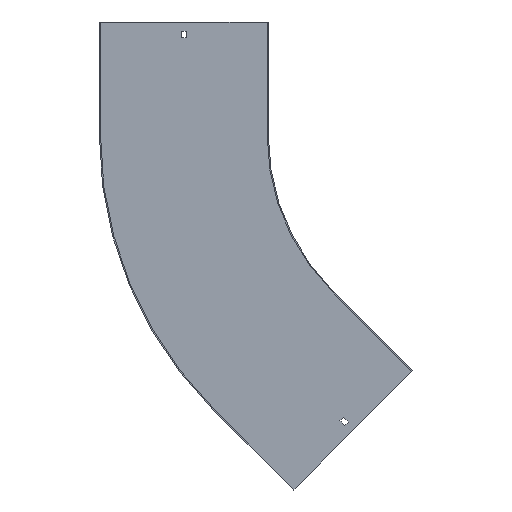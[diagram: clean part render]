
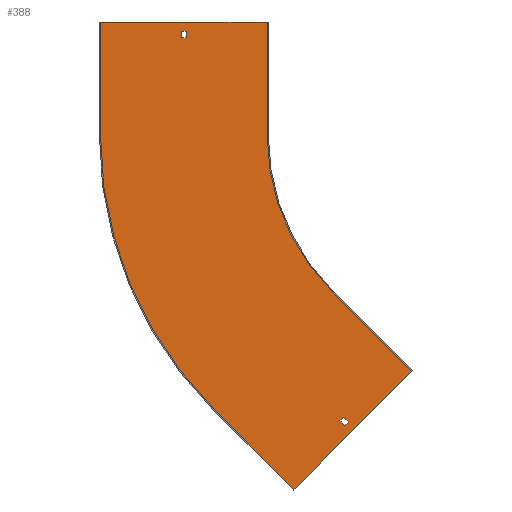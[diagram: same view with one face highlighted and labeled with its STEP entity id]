
A CAD part, front view. The second image highlights one B-rep face of the part: STEP entity #388.
In plain terms, the highlighted planar face has unit normal (0, -1, 0).
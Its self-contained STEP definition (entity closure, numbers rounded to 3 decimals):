
#2 = CARTESIAN_POINT ( 'NONE',  ( -182.964, -1.5, -378.125 ) ) ;
#7 = ORIENTED_EDGE ( 'NONE', *, *, #217, .F. ) ;
#8 = CARTESIAN_POINT ( 'NONE',  ( -396.75, -1.5, 129. ) ) ;
#12 = VECTOR ( 'NONE', #656, 1000. ) ;
#18 = DIRECTION ( 'NONE',  ( 0., 0., -1. ) ) ;
#19 = LINE ( 'NONE', #352, #816 ) ;
#26 = FACE_OUTER_BOUND ( 'NONE', #791, .T. ) ;
#34 = CARTESIAN_POINT ( 'NONE',  ( -290., -1.5, 150. ) ) ;
#35 = VERTEX_POINT ( 'NONE', #363 ) ;
#40 = ORIENTED_EDGE ( 'NONE', *, *, #591, .T. ) ;
#47 = CARTESIAN_POINT ( 'NONE',  ( -290., -1.5, 150. ) ) ;
#55 = CARTESIAN_POINT ( 'NONE',  ( -97.934, -1.5, -310.066 ) ) ;
#63 = EDGE_CURVE ( 'NONE', #397, #78, #826, .T. ) ;
#66 = DIRECTION ( 'NONE',  ( 1., 0., 0. ) ) ;
#78 = VERTEX_POINT ( 'NONE', #218 ) ;
#82 = CARTESIAN_POINT ( 'NONE',  ( -254.558, -1.5, -466.69 ) ) ;
#86 = CIRCLE ( 'NONE', #844, 510. ) ;
#97 = VECTOR ( 'NONE', #66, 1000. ) ;
#105 = DIRECTION ( 'NONE',  ( 0., 0., -1. ) ) ;
#107 = ORIENTED_EDGE ( 'NONE', *, *, #670, .F. ) ;
#110 = LINE ( 'NONE', #378, #269 ) ;
#117 = EDGE_CURVE ( 'NONE', #735, #739, #637, .T. ) ;
#120 = DIRECTION ( 'NONE',  ( -1., 0., 0. ) ) ;
#124 = VECTOR ( 'NONE', #289, 1000. ) ;
#125 = EDGE_CURVE ( 'NONE', #570, #397, #329, .T. ) ;
#131 = LINE ( 'NONE', #191, #288 ) ;
#144 = ORIENTED_EDGE ( 'NONE', *, *, #513, .F. ) ;
#156 = CARTESIAN_POINT ( 'NONE',  ( 97.581, -1.5, -97.581 ) ) ;
#158 = DIRECTION ( 'NONE',  ( 0.707, 0., -0.707 ) ) ;
#176 = CARTESIAN_POINT ( 'NONE',  ( 91.217, -1.5, -91.217 ) ) ;
#183 = CARTESIAN_POINT ( 'NONE',  ( -511.5, -1.5, 150. ) ) ;
#191 = CARTESIAN_POINT ( 'NONE',  ( -285.141, -1.5, -285.141 ) ) ;
#198 = LINE ( 'NONE', #722, #761 ) ;
#206 = ORIENTED_EDGE ( 'NONE', *, *, #546, .T. ) ;
#214 = VERTEX_POINT ( 'NONE', #323 ) ;
#217 = EDGE_CURVE ( 'NONE', #367, #555, #839, .T. ) ;
#218 = CARTESIAN_POINT ( 'NONE',  ( -98.995, -1.5, -311.127 ) ) ;
#224 = EDGE_CURVE ( 'NONE', #235, #347, #510, .T. ) ;
#228 = PLANE ( 'NONE',  #234 ) ;
#234 = AXIS2_PLACEMENT_3D ( 'NONE', #747, #366, #715 ) ;
#235 = VERTEX_POINT ( 'NONE', #386 ) ;
#248 = DIRECTION ( 'NONE',  ( -0.707, 0., 0.707 ) ) ;
#260 = CARTESIAN_POINT ( 'NONE',  ( 0., -1.5, 138. ) ) ;
#269 = VECTOR ( 'NONE', #426, 1000. ) ;
#270 = DIRECTION ( 'NONE',  ( 0., 0., 1. ) ) ;
#283 = EDGE_LOOP ( 'NONE', ( #144, #585, #808, #7 ) ) ;
#285 = DIRECTION ( 'NONE',  ( 0., -1., 0. ) ) ;
#287 = VECTOR ( 'NONE', #775, 1000. ) ;
#288 = VECTOR ( 'NONE', #659, 1000. ) ;
#289 = DIRECTION ( 'NONE',  ( 0.707, 0., 0.707 ) ) ;
#291 = DIRECTION ( 'NONE',  ( 0., 1., 0. ) ) ;
#295 = ORIENTED_EDGE ( 'NONE', *, *, #224, .T. ) ;
#317 = DIRECTION ( 'NONE',  ( -0.707, 0., -0.707 ) ) ;
#323 = CARTESIAN_POINT ( 'NONE',  ( -510., -1.5, 150. ) ) ;
#325 = CARTESIAN_POINT ( 'NONE',  ( 0., -1.5, 129. ) ) ;
#329 = CIRCLE ( 'NONE', #361, 290. ) ;
#337 = CARTESIAN_POINT ( 'NONE',  ( -187.56, -1.5, -382.722 ) ) ;
#345 = VECTOR ( 'NONE', #610, 1000. ) ;
#347 = VERTEX_POINT ( 'NONE', #8 ) ;
#352 = CARTESIAN_POINT ( 'NONE',  ( -510., -1.5, 0. ) ) ;
#355 = CARTESIAN_POINT ( 'NONE',  ( -205.061, -1.5, -205.061 ) ) ;
#361 = AXIS2_PLACEMENT_3D ( 'NONE', #443, #285, #18 ) ;
#363 = CARTESIAN_POINT ( 'NONE',  ( -403.25, -1.5, 138. ) ) ;
#366 = DIRECTION ( 'NONE',  ( 0., -1., 0. ) ) ;
#367 = VERTEX_POINT ( 'NONE', #818 ) ;
#378 = CARTESIAN_POINT ( 'NONE',  ( -403.25, -1.5, 0. ) ) ;
#386 = CARTESIAN_POINT ( 'NONE',  ( -396.75, -1.5, 138. ) ) ;
#387 = ORIENTED_EDGE ( 'NONE', *, *, #456, .F. ) ;
#388 = ADVANCED_FACE ( 'NONE', ( #547, #26, #627 ), #228, .T. ) ;
#395 = LINE ( 'NONE', #325, #612 ) ;
#397 = VERTEX_POINT ( 'NONE', #355 ) ;
#398 = CARTESIAN_POINT ( 'NONE',  ( -193.924, -1.5, -376.358 ) ) ;
#402 = VERTEX_POINT ( 'NONE', #756 ) ;
#412 = ORIENTED_EDGE ( 'NONE', *, *, #853, .T. ) ;
#426 = DIRECTION ( 'NONE',  ( 0., 0., 1. ) ) ;
#443 = CARTESIAN_POINT ( 'NONE',  ( 0., -1.5, 0. ) ) ;
#455 = LINE ( 'NONE', #183, #97 ) ;
#456 = EDGE_CURVE ( 'NONE', #614, #402, #86, .T. ) ;
#464 = EDGE_CURVE ( 'NONE', #834, #570, #700, .T. ) ;
#466 = LINE ( 'NONE', #55, #584 ) ;
#510 = LINE ( 'NONE', #592, #287 ) ;
#513 = EDGE_CURVE ( 'NONE', #739, #367, #198, .T. ) ;
#535 = EDGE_CURVE ( 'NONE', #214, #834, #455, .T. ) ;
#537 = VECTOR ( 'NONE', #642, 1000. ) ;
#546 = EDGE_CURVE ( 'NONE', #35, #235, #598, .T. ) ;
#547 = FACE_BOUND ( 'NONE', #283, .T. ) ;
#555 = VERTEX_POINT ( 'NONE', #398 ) ;
#566 = VECTOR ( 'NONE', #158, 1000. ) ;
#570 = VERTEX_POINT ( 'NONE', #842 ) ;
#574 = CARTESIAN_POINT ( 'NONE',  ( -403.25, -1.5, 129. ) ) ;
#583 = EDGE_CURVE ( 'NONE', #555, #735, #131, .T. ) ;
#584 = VECTOR ( 'NONE', #317, 1000. ) ;
#585 = ORIENTED_EDGE ( 'NONE', *, *, #117, .F. ) ;
#591 = EDGE_CURVE ( 'NONE', #347, #847, #395, .T. ) ;
#592 = CARTESIAN_POINT ( 'NONE',  ( -396.75, -1.5, 0. ) ) ;
#598 = LINE ( 'NONE', #260, #12 ) ;
#600 = VECTOR ( 'NONE', #105, 1000. ) ;
#604 = ORIENTED_EDGE ( 'NONE', *, *, #535, .F. ) ;
#609 = ORIENTED_EDGE ( 'NONE', *, *, #617, .F. ) ;
#610 = DIRECTION ( 'NONE',  ( -0.707, 0., 0.707 ) ) ;
#612 = VECTOR ( 'NONE', #120, 1000. ) ;
#614 = VERTEX_POINT ( 'NONE', #849 ) ;
#615 = LINE ( 'NONE', #619, #345 ) ;
#617 = EDGE_CURVE ( 'NONE', #78, #639, #466, .T. ) ;
#619 = CARTESIAN_POINT ( 'NONE',  ( -254.558, -1.5, -466.69 ) ) ;
#627 = FACE_BOUND ( 'NONE', #658, .T. ) ;
#631 = DIRECTION ( 'NONE',  ( 0., 0., -1. ) ) ;
#637 = LINE ( 'NONE', #156, #124 ) ;
#639 = VERTEX_POINT ( 'NONE', #82 ) ;
#642 = DIRECTION ( 'NONE',  ( -0.707, 0., -0.707 ) ) ;
#656 = DIRECTION ( 'NONE',  ( 1., 0., 0. ) ) ;
#658 = EDGE_LOOP ( 'NONE', ( #206, #295, #40, #412 ) ) ;
#659 = DIRECTION ( 'NONE',  ( 0.707, 0., -0.707 ) ) ;
#670 = EDGE_CURVE ( 'NONE', #402, #214, #19, .T. ) ;
#673 = EDGE_CURVE ( 'NONE', #639, #614, #615, .T. ) ;
#700 = LINE ( 'NONE', #47, #600 ) ;
#703 = ORIENTED_EDGE ( 'NONE', *, *, #673, .F. ) ;
#715 = DIRECTION ( 'NONE',  ( 0., 0., -1. ) ) ;
#717 = ORIENTED_EDGE ( 'NONE', *, *, #464, .F. ) ;
#722 = CARTESIAN_POINT ( 'NONE',  ( -280.545, -1.5, -280.545 ) ) ;
#735 = VERTEX_POINT ( 'NONE', #337 ) ;
#737 = ORIENTED_EDGE ( 'NONE', *, *, #125, .F. ) ;
#739 = VERTEX_POINT ( 'NONE', #2 ) ;
#747 = CARTESIAN_POINT ( 'NONE',  ( 0., -1.5, 0. ) ) ;
#756 = CARTESIAN_POINT ( 'NONE',  ( -510., -1.5, 0. ) ) ;
#761 = VECTOR ( 'NONE', #248, 1000. ) ;
#764 = ORIENTED_EDGE ( 'NONE', *, *, #63, .F. ) ;
#775 = DIRECTION ( 'NONE',  ( 0., 0., -1. ) ) ;
#791 = EDGE_LOOP ( 'NONE', ( #604, #107, #387, #703, #609, #764, #737, #717 ) ) ;
#808 = ORIENTED_EDGE ( 'NONE', *, *, #583, .F. ) ;
#816 = VECTOR ( 'NONE', #270, 1000. ) ;
#818 = CARTESIAN_POINT ( 'NONE',  ( -189.328, -1.5, -371.761 ) ) ;
#819 = CARTESIAN_POINT ( 'NONE',  ( -205.061, -1.5, -205.061 ) ) ;
#823 = CARTESIAN_POINT ( 'NONE',  ( 0., -1.5, 0. ) ) ;
#826 = LINE ( 'NONE', #819, #566 ) ;
#834 = VERTEX_POINT ( 'NONE', #34 ) ;
#839 = LINE ( 'NONE', #176, #537 ) ;
#842 = CARTESIAN_POINT ( 'NONE',  ( -290., -1.5, 0. ) ) ;
#844 = AXIS2_PLACEMENT_3D ( 'NONE', #823, #291, #631 ) ;
#847 = VERTEX_POINT ( 'NONE', #574 ) ;
#849 = CARTESIAN_POINT ( 'NONE',  ( -360.624, -1.5, -360.624 ) ) ;
#853 = EDGE_CURVE ( 'NONE', #847, #35, #110, .T. ) ;
